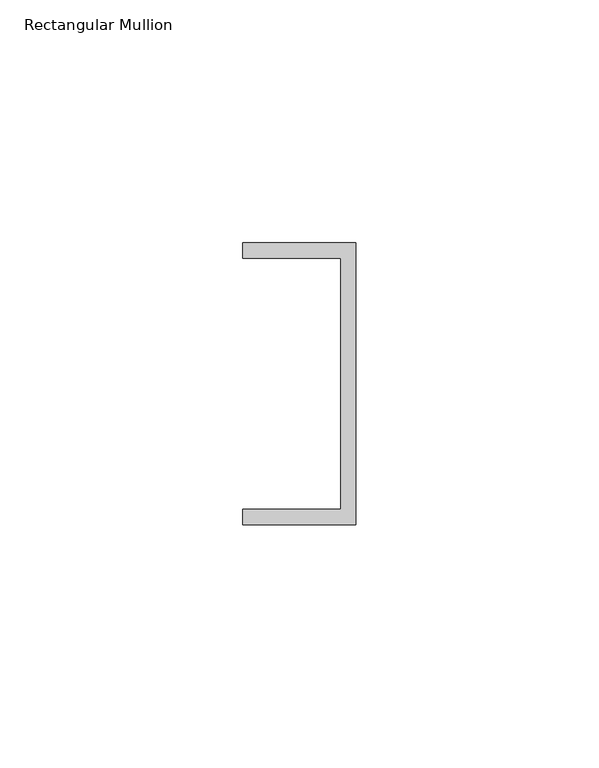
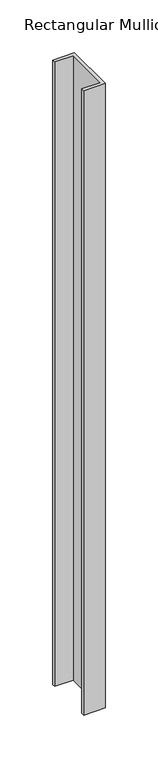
"""IFC4 building model written with IfcOpenShell, lengths in millimetres: member geometry, Rectangular Mullion : Frame-Teknion-Altos-Base_Channel."""

from ifc_helpers import new_model, si_unit, frame, origin, place, context, project, spatial, polyline, outline, extrude, source, transform, mapped, element, save


def rectangular_mullion_f9391e24(model_context):
    return source(origin(), model_context, "Body", "SweptSolid", [
        extrude(outline(polyline([(0.0, 29.0214844), (0.0, -29.0214844), (-23.3164063, -29.0214844), (-23.3164063, -25.8464844), (-3.175, -25.8464844), (-3.175, 25.8464844), (-23.3164063, 25.8464844), (-23.3164063, 29.0214844), (0.0, 29.0214844)])), frame((0.0, 0.0, -720.0304687), z_axis=(0.0, 0.0, 1.0), x_axis=(1.0, 0.0, 0.0)), (0.0, 0.0, 1.0), 720.0304687),
    ])


if __name__ == "__main__":
    model = new_model("IFC4")
    model_context = context("Model", 3, world=origin())
    ifc_project = project(units=[si_unit("LENGTHUNIT", "METRE", prefix="MILLI")], contexts=[model_context])
    site = spatial("IfcSite", under=ifc_project)
    building = spatial("IfcBuilding", under=site)
    placement = place(None, origin())
    rectangular_mullion_shape = rectangular_mullion_f9391e24(model_context)
    element("IfcMember", 1, ObjectType="Rectangular Mullion : Frame-Teknion-Altos-Base_Channel", at=placement, inside=building, context=model_context, shape_type="MappedRepresentation", body=[
        mapped(rectangular_mullion_shape, transform((0.0, 0.0, 0.0), x_axis=(1.0, 0.0, 0.0), y_axis=(0.0, 1.0, 0.0), z_axis=(0.0, 0.0, 1.0))),
    ])
    save(model, "model.ifc")
